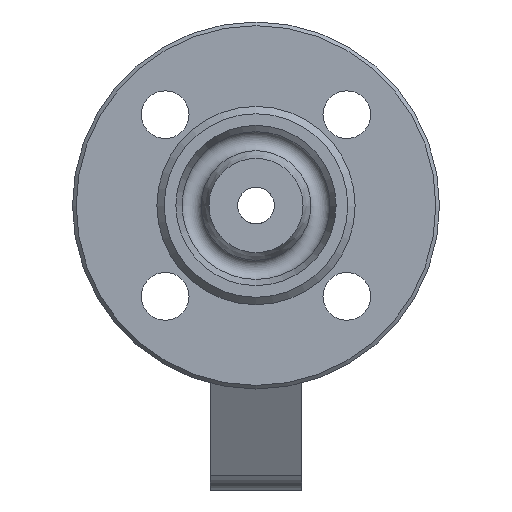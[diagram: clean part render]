
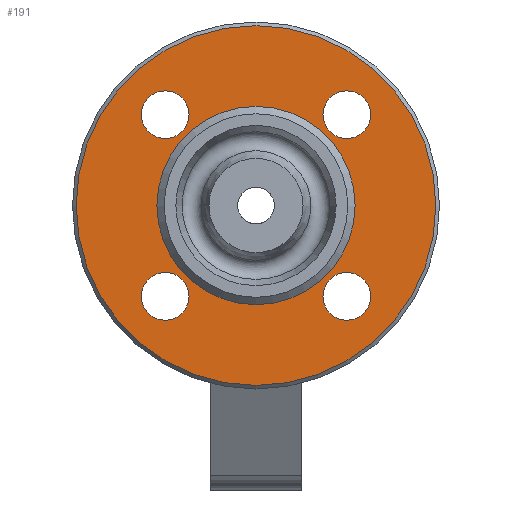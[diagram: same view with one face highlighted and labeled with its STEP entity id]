
A CAD part, left-side view. The second image highlights one B-rep face of the part: STEP entity #191.
In plain terms, the highlighted planar face has unit normal (-1, 0, 0).
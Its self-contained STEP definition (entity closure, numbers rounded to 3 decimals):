
#191=ADVANCED_FACE('',(#1510,#1512,#1514,#1516,#1518,#1520),#1522,.T.);
#1510=FACE_BOUND('',#1511,.T.);
#1511=EDGE_LOOP('',(#2405));
#1512=FACE_BOUND('',#1513,.T.);
#1513=EDGE_LOOP('',(#2406));
#1514=FACE_BOUND('',#1515,.T.);
#1515=EDGE_LOOP('',(#2407));
#1516=FACE_BOUND('',#1517,.T.);
#1517=EDGE_LOOP('',(#2408));
#1518=FACE_BOUND('',#1519,.T.);
#1519=EDGE_LOOP('',(#2409));
#1520=FACE_OUTER_BOUND('',#1521,.T.);
#1521=EDGE_LOOP('',(#2410));
#1522=PLANE('',#1523);
#1523=AXIS2_PLACEMENT_3D('',#1524,#1525,#1526);
#1524=CARTESIAN_POINT('',(-50.,0.,0.));
#1525=DIRECTION('',(-1.,0.,0.));
#1526=DIRECTION('',(0.,1.,0.));
#2405=ORIENTED_EDGE('',*,*,#3295,.T.);
#2406=ORIENTED_EDGE('',*,*,#3298,.T.);
#2407=ORIENTED_EDGE('',*,*,#3300,.T.);
#2408=ORIENTED_EDGE('',*,*,#3302,.T.);
#2409=ORIENTED_EDGE('',*,*,#3323,.T.);
#2410=ORIENTED_EDGE('',*,*,#3324,.F.);
#3295=EDGE_CURVE('',#3706,#3706,#3707,.F.);
#3298=EDGE_CURVE('',#3709,#3709,#3711,.F.);
#3300=EDGE_CURVE('',#3712,#3712,#3714,.F.);
#3302=EDGE_CURVE('',#3715,#3715,#3717,.F.);
#3323=EDGE_CURVE('',#3746,#3746,#3747,.T.);
#3324=EDGE_CURVE('',#3748,#3748,#3749,.T.);
#3706=VERTEX_POINT('',#5076);
#3707=CIRCLE('',#5077,6.5);
#3709=VERTEX_POINT('',#5084);
#3711=CIRCLE('',#5088,6.5);
#3712=VERTEX_POINT('',#5092);
#3714=CIRCLE('',#5096,6.5);
#3715=VERTEX_POINT('',#5100);
#3717=CIRCLE('',#5104,6.5);
#3746=VERTEX_POINT('',#5180);
#3747=CIRCLE('',#5181,27.);
#3748=VERTEX_POINT('',#5185);
#3749=CIRCLE('',#5186,49.);
#5076=CARTESIAN_POINT('',(-50.,-24.749,-31.249));
#5077=AXIS2_PLACEMENT_3D('',#5078,#5079,#5080);
#5078=CARTESIAN_POINT('',(-50.,-24.749,-24.749));
#5079=DIRECTION('',(-1.,0.,0.));
#5080=DIRECTION('',(0.,0.,-1.));
#5084=CARTESIAN_POINT('',(-50.,-31.249,24.749));
#5088=AXIS2_PLACEMENT_3D('',#5089,#5090,#5091);
#5089=CARTESIAN_POINT('',(-50.,-24.749,24.749));
#5090=DIRECTION('',(-1.,0.,0.));
#5091=DIRECTION('',(0.,-1.,-0.));
#5092=CARTESIAN_POINT('',(-50.,24.749,31.249));
#5096=AXIS2_PLACEMENT_3D('',#5097,#5098,#5099);
#5097=CARTESIAN_POINT('',(-50.,24.749,24.749));
#5098=DIRECTION('',(-1.,0.,0.));
#5099=DIRECTION('',(0.,0.,1.));
#5100=CARTESIAN_POINT('',(-50.,31.249,-24.749));
#5104=AXIS2_PLACEMENT_3D('',#5105,#5106,#5107);
#5105=CARTESIAN_POINT('',(-50.,24.749,-24.749));
#5106=DIRECTION('',(-1.,0.,0.));
#5107=DIRECTION('',(0.,1.,0.));
#5180=CARTESIAN_POINT('',(-50.,27.,0.));
#5181=AXIS2_PLACEMENT_3D('',#5182,#5183,#5184);
#5182=CARTESIAN_POINT('',(-50.,0.,0.));
#5183=DIRECTION('',(1.,-0.,-0.));
#5184=DIRECTION('',(0.,1.,0.));
#5185=CARTESIAN_POINT('',(-50.,49.,0.));
#5186=AXIS2_PLACEMENT_3D('',#5187,#5188,#5189);
#5187=CARTESIAN_POINT('',(-50.,0.,0.));
#5188=DIRECTION('',(1.,-0.,-0.));
#5189=DIRECTION('',(0.,1.,0.));
